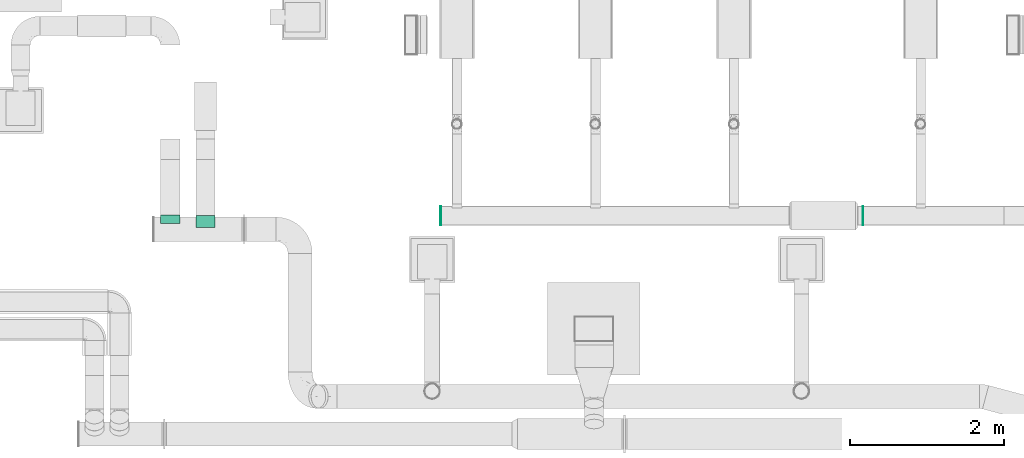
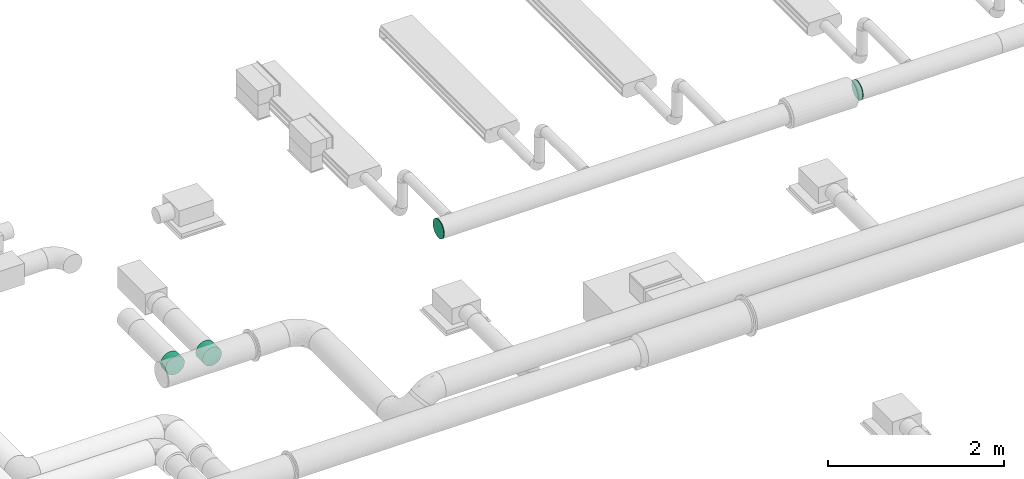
# One storey, part 34 of 36: 4 flow fittings.
"""IFC2X3 building model written with IfcOpenShell, lengths in millimetres."""

from ifc_helpers import new_model, entity, si_unit, converted_unit, derived_unit, direction, frame, origin_with_axes, place, context, subcontext, project, spatial, open_shell, surface_model, source, transform, mapped, type_object, element, save


model = new_model("IFC2X3")

# Units and contexts
model_context = context("Model", 3, precision=0.01, world=frame((0.0, 4.29681676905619e-09, 0.0)), true_north=direction((4.01073788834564e-13, 1.0)))
plan_context = context("Plan", 3, precision=0.01, world=frame((0.0, 4.29681676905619e-09, 0.0)), true_north=direction((4.01073788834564e-13, 1.0)))
body_context = subcontext(model_context, "Body", "Model", "MODEL_VIEW")
ifc_project = project(units=[converted_unit("PLANEANGLEUNIT", "DEGREE", entity("IfcPositiveLengthMeasure", 0.0174532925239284), si_unit("PLANEANGLEUNIT", "RADIAN"), dimensions=[0, 0, 0, 0, 0, 0, 0]), si_unit("AREAUNIT", "SQUARE_METRE"), si_unit("LENGTHUNIT", "METRE", prefix="MILLI"), si_unit("MASSUNIT", "GRAM", prefix="KILO"), si_unit("POWERUNIT", "WATT"), si_unit("PRESSUREUNIT", "PASCAL"), si_unit("FORCEUNIT", "NEWTON", prefix="KILO"), si_unit("ELECTRICCURRENTUNIT", "AMPERE"), si_unit("THERMODYNAMICTEMPERATUREUNIT", "DEGREE_CELSIUS"), si_unit("TIMEUNIT", "SECOND"), si_unit("VOLUMEUNIT", "CUBIC_METRE"), derived_unit("LINEARVELOCITYUNIT", [(si_unit("LENGTHUNIT", "METRE"), 1), (si_unit("TIMEUNIT", "SECOND"), -1)]), derived_unit("VOLUMETRICFLOWRATEUNIT", [(si_unit("VOLUMEUNIT", "CUBIC_METRE"), 1), (si_unit("TIMEUNIT", "SECOND"), -1)]), derived_unit("THERMALTRANSMITTANCEUNIT", [(si_unit("POWERUNIT", "WATT"), 1), (si_unit("THERMODYNAMICTEMPERATUREUNIT", "KELVIN"), -1), (si_unit("AREAUNIT", "SQUARE_METRE"), -1)])], contexts=[model_context, plan_context])

# Site, building, storey
site_placement = place(None, frame((0.0, -4.29681676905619e-09, 0.0), z_axis=(0.0, 0.0, 1.0), x_axis=(1.0, 0.0, 0.0)))
site = spatial("IfcSite", under=ifc_project, at=site_placement, CompositionType="ELEMENT")
building_placement = place(site_placement, frame((0.0, 4.29681676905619e-09, 0.0), z_axis=(0.0, 0.0, 1.0), x_axis=(1.0, 0.0, 0.0)))
building = spatial("IfcBuilding", under=site, at=building_placement, Name="mc-building", CompositionType="ELEMENT")
storey_placement = place(building_placement, frame((0.0, 0.0, 204000.0), z_axis=(0.0, 0.0, 1.0), x_axis=(1.0, 0.0, 0.0)))
storey = spatial("IfcBuildingStorey", under=building, at=storey_placement, Name="Nivå D", CompositionType="ELEMENT", Elevation=204000.0)

# Flow fittings
duct_fitting_type_1 = type_object("IfcDuctFittingType", Name="magicirc_joint_001", PredefinedType="CONNECTOR")
shared_shape_1 = source(origin_with_axes(), body_context, "Body", "SurfaceModel", [
    surface_model("IfcShellBasedSurfaceModel", [(0.0, -62.5, -108.25318), (0.0, -88.38835, -88.38835), (0.0, -32.35238, -120.74073), (0.0, -108.25318, -62.5), (0.0, -120.74073, -32.35238), (0.0, -88.38835, 88.38835), (0.0, -62.5, 108.25318), (0.0, -108.25318, 62.5), (0.0, -125.0, 0.0), (0.0, -120.74073, 32.35238), (10.0, -32.35238, -120.74073), (10.0, -88.38835, -88.38835), (10.0, -62.5, -108.25318), (10.0, -120.74073, -32.35238), (10.0, -108.25318, -62.5), (10.0, -108.25318, 62.5), (10.0, -62.5, 108.25318), (10.0, -88.38835, 88.38835), (10.0, -120.74073, 32.35238), (10.0, -125.0, 0.0), (10.0, 120.74073, -32.35238), (10.0, 125.0, 0.0), (10.0, -32.35238, 120.74073), (0.0, -32.35238, 120.74073), (10.0, 0.0, 125.0), (0.0, 0.0, 125.0), (10.0, 62.5, 108.25318), (0.0, 32.35238, 120.74073), (10.0, 32.35238, 120.74073), (10.0, 88.38835, 88.38835), (0.0, 62.5, 108.25318), (0.0, 108.25318, 62.5), (10.0, 108.25318, 62.5), (10.0, 120.74073, 32.35238), (0.0, 88.38835, 88.38835), (0.0, 120.74073, 32.35238), (0.0, 125.0, 0.0), (10.0, 108.25318, -62.5), (0.0, 120.74073, -32.35238), (0.0, 88.38835, -88.38835), (10.0, 88.38835, -88.38835), (10.0, 62.5, -108.25318), (0.0, 108.25318, -62.5), (0.0, 62.5, -108.25318), (10.0, 32.35238, -120.74073), (0.0, 32.35238, -120.74073), (10.0, 0.0, -125.0), (0.0, 0.0, -125.0)], [open_shell([[[0, 1, 2]], [[3, 4, 1]], [[5, 6, 7]], [[7, 8, 9]], [[10, 11, 12]], [[11, 13, 14]], [[15, 16, 17]], [[18, 19, 15]], [[15, 20, 21]], [[18, 8, 19]], [[15, 9, 18]], [[5, 17, 16]], [[15, 17, 7]], [[6, 16, 22]], [[15, 7, 9]], [[9, 8, 18]], [[23, 24, 25]], [[23, 6, 22]], [[5, 16, 6]], [[5, 7, 17]], [[24, 23, 22]], [[26, 27, 28]], [[29, 30, 26]], [[31, 32, 33]], [[29, 32, 34]], [[35, 33, 21]], [[26, 30, 27]], [[27, 25, 28]], [[35, 31, 33]], [[34, 32, 31]], [[34, 30, 29]], [[36, 35, 21]], [[28, 25, 24]], [[20, 36, 21]], [[37, 38, 20]], [[39, 40, 41]], [[37, 40, 42]], [[43, 41, 44]], [[37, 42, 38]], [[38, 36, 20]], [[45, 46, 47]], [[45, 43, 44]], [[39, 41, 43]], [[39, 42, 40]], [[46, 45, 44]], [[2, 10, 12]], [[0, 12, 11]], [[4, 14, 13]], [[8, 13, 19]], [[11, 14, 1]], [[12, 0, 2]], [[2, 47, 10]], [[1, 14, 3]], [[4, 3, 14]], [[8, 4, 13]], [[1, 0, 11]], [[10, 47, 46]], [[43, 45, 47]], [[39, 43, 47]], [[38, 42, 39]], [[2, 39, 47]], [[4, 7, 39]], [[4, 2, 1]], [[4, 39, 2]], [[8, 7, 4]], [[7, 38, 39]], [[35, 36, 27]], [[31, 35, 30]], [[35, 27, 30]], [[34, 31, 30]], [[6, 27, 36]], [[23, 25, 6]], [[36, 7, 6]], [[27, 6, 25]], [[36, 38, 7]], [[46, 44, 41]], [[46, 41, 40]], [[40, 37, 20]], [[46, 40, 10]], [[40, 15, 13]], [[11, 10, 13]], [[10, 40, 13]], [[13, 15, 19]], [[40, 20, 15]], [[28, 21, 33]], [[28, 33, 32]], [[26, 28, 32]], [[26, 32, 29]], [[21, 28, 16]], [[16, 24, 22]], [[16, 15, 21]], [[24, 16, 28]]])]),
])
flow_fitting_1_placement = place(storey_placement, frame((526491.31828, 416568.96658, 3200.0), z_axis=(0.0, 0.0, 1.0), x_axis=(1.0, 0.0, 0.0)))
element("IfcFlowFitting", 1, at=flow_fitting_1_placement, inside=storey, type_object=duct_fitting_type_1, Name="magicirc_joint_001", context=body_context, shape_type="MappedRepresentation", body=[
    mapped(shared_shape_1, transform((0.0, 0.0, 0.0), scale=1.0)),
])
duct_fitting_type_2 = type_object("IfcDuctFittingType", Name="magicirc_tapoutlet_001", PredefinedType="CONNECTOR")
shared_shape_2 = source(origin_with_axes(), body_context, "Body", "SurfaceModel", [
    surface_model("IfcShellBasedSurfaceModel", [(25.0, 62.5, -108.25318), (25.0, 125.0, 0.0), (25.0, 32.35238, -120.74073), (25.0, -88.38835, -88.38835), (25.0, 0.0, -125.0), (25.0, -120.74073, 32.35238), (25.0, -62.5, -108.25318), (25.0, -32.35238, -120.74073), (25.0, -108.25318, -62.5), (25.0, -120.74073, -32.35238), (25.0, -125.0, 0.0), (25.0, 108.25318, -62.5), (25.0, 120.74073, -32.35238), (25.0, 120.74073, 32.35238), (25.0, 108.25318, 62.5), (25.0, 88.38835, 88.38835), (25.0, 32.35238, 120.74073), (25.0, 62.5, 108.25318), (25.0, -62.5, 108.25318), (25.0, -88.38835, 88.38835), (25.0, -108.25318, 62.5), (25.0, 0.0, 125.0), (25.0, -32.35238, 120.74073), (0.0, 0.0, 125.0), (0.0, 32.35238, 120.74073), (0.0, 62.5, 108.25318), (0.0, 88.38835, 88.38835), (0.0, 108.25318, 62.5), (0.0, 120.74073, 32.35238), (0.0, 125.0, 0.0), (0.0, 120.74073, -32.35238), (0.0, 108.25318, -62.5), (25.0, 88.38835, -88.38835), (0.0, 88.38835, -88.38835), (0.0, 0.0, -125.0), (0.0, 32.35238, -120.74073), (0.0, 62.5, -108.25318), (0.0, -32.35238, -120.74073), (0.0, -62.5, -108.25318), (0.0, -88.38835, -88.38835), (0.0, -108.25318, -62.5), (0.0, -120.74073, -32.35238), (0.0, -125.0, 0.0), (0.0, -120.74073, 32.35238), (0.0, -108.25318, 62.5), (0.0, -88.38835, 88.38835), (0.0, -62.5, 108.25318), (0.0, -32.35238, 120.74073), (-86.28773, 0.0, -125.0), (-86.28773, -32.35238, -120.74073), (-86.28773, 32.35238, -120.74073), (-86.28773, 120.74073, 32.35238), (-86.28773, 62.5, -108.25318), (-86.28773, 88.38835, -88.38835), (-86.28773, 108.25318, -62.5), (-86.28773, -125.0, 0.0), (-86.28773, -120.74073, 32.35238), (-86.28773, -88.38835, -88.38835), (-86.28773, -62.5, -108.25318), (-86.28773, -120.74073, -32.35238), (-86.28773, -108.25318, -62.5), (-86.28773, 120.74073, -32.35238), (-86.28773, 108.25318, 62.5), (-86.28773, 62.5, 108.25318), (-86.28773, 32.35238, 120.74073), (-86.28773, 88.38835, 88.38835), (-86.28773, 0.0, 125.0), (-86.28773, -108.25318, 62.5), (-86.28773, -88.38835, 88.38835), (-86.28773, -32.35238, 120.74073), (-86.28773, -62.5, 108.25318), (-86.28773, 125.0, 0.0)], [open_shell([[[0, 1, 2]], [[3, 4, 5]], [[4, 3, 6]], [[6, 7, 4]], [[8, 5, 9]], [[5, 10, 9]], [[1, 11, 12]], [[13, 14, 4]], [[4, 14, 15]], [[16, 4, 17]], [[4, 15, 17]], [[18, 4, 16]], [[19, 20, 4]], [[16, 21, 22]], [[23, 21, 16]], [[24, 16, 17]], [[23, 16, 24]], [[25, 15, 26]], [[25, 24, 17]], [[15, 25, 17]], [[27, 14, 13]], [[28, 13, 1]], [[26, 14, 27]], [[28, 27, 13]], [[29, 28, 1]], [[14, 26, 15]], [[29, 1, 12]], [[30, 12, 11]], [[29, 12, 30]], [[31, 32, 33]], [[31, 30, 11]], [[32, 31, 11]], [[2, 4, 34]], [[0, 2, 35]], [[33, 0, 36]], [[34, 35, 2]], [[0, 35, 36]], [[0, 33, 32]], [[34, 4, 7]], [[37, 7, 6]], [[34, 7, 37]], [[38, 3, 39]], [[38, 37, 6]], [[3, 38, 6]], [[40, 8, 9]], [[41, 9, 10]], [[39, 8, 40]], [[41, 40, 9]], [[42, 41, 10]], [[8, 39, 3]], [[42, 10, 5]], [[43, 5, 20]], [[42, 5, 43]], [[44, 19, 45]], [[44, 43, 20]], [[19, 44, 20]], [[46, 18, 22]], [[47, 22, 21]], [[45, 18, 46]], [[47, 46, 22]], [[23, 47, 21]], [[18, 45, 19]], [[8, 3, 5]], [[10, 9, 5]], [[19, 4, 18]], [[16, 22, 18]], [[1, 13, 4]], [[2, 1, 4]], [[32, 11, 1]], [[32, 1, 0]], [[4, 6, 7]], [[4, 14, 17]], [[17, 14, 15]], [[4, 16, 18]], [[4, 20, 5]], [[14, 4, 13]], [[17, 16, 4]], [[4, 19, 20]], [[4, 18, 19]], [[21, 22, 16]], [[4, 1, 13]], [[48, 49, 50]], [[50, 51, 52]], [[53, 51, 54]], [[52, 51, 53]], [[50, 55, 56]], [[57, 55, 58]], [[50, 49, 58]], [[59, 55, 60]], [[57, 60, 55]], [[58, 55, 50]], [[61, 54, 51]], [[62, 51, 50]], [[63, 62, 50]], [[63, 50, 64]], [[65, 62, 63]], [[66, 64, 50]], [[56, 67, 50]], [[67, 68, 50]], [[69, 66, 70]], [[68, 70, 66]], [[50, 68, 66]], [[71, 61, 51]], [[64, 23, 24]], [[63, 24, 25]], [[66, 23, 64]], [[64, 24, 63]], [[25, 65, 63]], [[25, 26, 65]], [[51, 27, 28]], [[71, 28, 29]], [[26, 62, 65]], [[26, 27, 62]], [[62, 27, 51]], [[28, 71, 51]], [[71, 29, 30]], [[61, 30, 31]], [[71, 30, 61]], [[33, 53, 54]], [[31, 54, 61]], [[54, 31, 33]], [[50, 36, 35]], [[48, 35, 34]], [[33, 52, 53]], [[33, 36, 52]], [[52, 36, 50]], [[35, 48, 50]], [[37, 38, 49]], [[34, 37, 49]], [[49, 48, 34]], [[58, 49, 38]], [[38, 57, 58]], [[38, 39, 57]], [[59, 40, 41]], [[55, 41, 42]], [[39, 60, 57]], [[39, 40, 60]], [[60, 40, 59]], [[41, 55, 59]], [[56, 42, 43]], [[67, 43, 44]], [[55, 42, 56]], [[56, 43, 67]], [[44, 68, 67]], [[44, 45, 68]], [[69, 46, 47]], [[66, 47, 23]], [[45, 70, 68]], [[45, 46, 70]], [[70, 46, 69]], [[47, 66, 69]], [[65, 62, 50]], [[50, 64, 63]], [[63, 65, 50]], [[50, 68, 70]], [[66, 50, 70]]])]),
])
flow_fitting_2_placement = place(storey_placement, frame((517491.89341, 416551.69142, 2596.62929000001), z_axis=(0.0, 0.0, -1.0), x_axis=(0.0, 1.0, 0.0)))
element("IfcFlowFitting", 2, at=flow_fitting_2_placement, inside=storey, type_object=duct_fitting_type_2, Name="magicirc_tapoutlet_001", context=body_context, shape_type="MappedRepresentation", body=[
    mapped(shared_shape_2, transform((0.0, 0.0, 0.0), scale=1.0)),
])
shared_shape_3 = source(origin_with_axes(), body_context, "Body", "SurfaceModel", [
    surface_model("IfcShellBasedSurfaceModel", [(25.0, 62.5, -108.25318), (25.0, 125.0, 0.0), (25.0, 32.35238, -120.74073), (25.0, -88.38835, -88.38835), (25.0, 0.0, -125.0), (25.0, -120.74073, 32.35238), (25.0, -62.5, -108.25318), (25.0, -32.35238, -120.74073), (25.0, -108.25318, -62.5), (25.0, -120.74073, -32.35238), (25.0, -125.0, 0.0), (25.0, 108.25318, -62.5), (25.0, 120.74073, -32.35238), (25.0, 120.74073, 32.35238), (25.0, 108.25318, 62.5), (25.0, 88.38835, 88.38835), (25.0, 32.35238, 120.74073), (25.0, 62.5, 108.25318), (25.0, -62.5, 108.25318), (25.0, -88.38835, 88.38835), (25.0, -108.25318, 62.5), (25.0, 0.0, 125.0), (25.0, -32.35238, 120.74073), (0.0, 0.0, 125.0), (0.0, 32.35238, 120.74073), (0.0, 62.5, 108.25318), (0.0, 88.38835, 88.38835), (0.0, 108.25318, 62.5), (0.0, 120.74073, 32.35238), (0.0, 125.0, 0.0), (0.0, 120.74073, -32.35238), (0.0, 108.25318, -62.5), (25.0, 88.38835, -88.38835), (0.0, 88.38835, -88.38835), (0.0, 0.0, -125.0), (0.0, 32.35238, -120.74073), (0.0, 62.5, -108.25318), (0.0, -32.35238, -120.74073), (0.0, -62.5, -108.25318), (0.0, -88.38835, -88.38835), (0.0, -108.25318, -62.5), (0.0, -120.74073, -32.35238), (0.0, -125.0, 0.0), (0.0, -120.74073, 32.35238), (0.0, -108.25318, 62.5), (0.0, -88.38835, 88.38835), (0.0, -62.5, 108.25318), (0.0, -32.35238, 120.74073), (-132.07891, 0.0, -125.0), (-132.07891, -32.35238, -120.74073), (-132.07891, 32.35238, -120.74073), (-132.07891, 120.74073, 32.35238), (-132.07891, 62.5, -108.25318), (-132.07891, 88.38835, -88.38835), (-132.07891, 108.25318, -62.5), (-132.07891, -125.0, 0.0), (-132.07891, -120.74073, 32.35238), (-132.07891, -88.38835, -88.38835), (-132.07891, -62.5, -108.25318), (-132.07891, -120.74073, -32.35238), (-132.07891, -108.25318, -62.5), (-132.07891, 120.74073, -32.35238), (-132.07891, 108.25318, 62.5), (-132.07891, 62.5, 108.25318), (-132.07891, 32.35238, 120.74073), (-132.07891, 88.38835, 88.38835), (-132.07891, 0.0, 125.0), (-132.07891, -108.25318, 62.5), (-132.07891, -88.38835, 88.38835), (-132.07891, -32.35238, 120.74073), (-132.07891, -62.5, 108.25318), (-132.07891, 125.0, 0.0)], [open_shell([[[0, 1, 2]], [[3, 4, 5]], [[4, 3, 6]], [[6, 7, 4]], [[8, 5, 9]], [[5, 10, 9]], [[1, 11, 12]], [[13, 14, 4]], [[4, 14, 15]], [[16, 4, 17]], [[4, 15, 17]], [[18, 4, 16]], [[19, 20, 4]], [[16, 21, 22]], [[23, 21, 16]], [[24, 16, 17]], [[23, 16, 24]], [[25, 15, 26]], [[25, 24, 17]], [[15, 25, 17]], [[27, 14, 13]], [[28, 13, 1]], [[26, 14, 27]], [[28, 27, 13]], [[29, 28, 1]], [[14, 26, 15]], [[29, 1, 12]], [[30, 12, 11]], [[29, 12, 30]], [[31, 32, 33]], [[31, 30, 11]], [[32, 31, 11]], [[2, 4, 34]], [[0, 2, 35]], [[33, 0, 36]], [[34, 35, 2]], [[0, 35, 36]], [[0, 33, 32]], [[34, 4, 7]], [[37, 7, 6]], [[34, 7, 37]], [[38, 3, 39]], [[38, 37, 6]], [[3, 38, 6]], [[40, 8, 9]], [[41, 9, 10]], [[39, 8, 40]], [[41, 40, 9]], [[42, 41, 10]], [[8, 39, 3]], [[42, 10, 5]], [[43, 5, 20]], [[42, 5, 43]], [[44, 19, 45]], [[44, 43, 20]], [[19, 44, 20]], [[46, 18, 22]], [[47, 22, 21]], [[45, 18, 46]], [[47, 46, 22]], [[23, 47, 21]], [[18, 45, 19]], [[8, 3, 5]], [[10, 9, 5]], [[19, 4, 18]], [[16, 22, 18]], [[1, 13, 4]], [[2, 1, 4]], [[32, 11, 1]], [[32, 1, 0]], [[4, 6, 7]], [[4, 14, 17]], [[17, 14, 15]], [[4, 16, 18]], [[4, 20, 5]], [[14, 4, 13]], [[17, 16, 4]], [[4, 19, 20]], [[4, 18, 19]], [[21, 22, 16]], [[4, 1, 13]], [[48, 49, 50]], [[50, 51, 52]], [[53, 51, 54]], [[52, 51, 53]], [[50, 55, 56]], [[57, 55, 58]], [[50, 49, 58]], [[59, 55, 60]], [[57, 60, 55]], [[58, 55, 50]], [[61, 54, 51]], [[62, 51, 50]], [[63, 62, 50]], [[63, 50, 64]], [[65, 62, 63]], [[66, 64, 50]], [[56, 67, 50]], [[67, 68, 50]], [[69, 66, 70]], [[68, 70, 66]], [[50, 68, 66]], [[71, 61, 51]], [[64, 23, 24]], [[63, 24, 25]], [[66, 23, 64]], [[64, 24, 63]], [[25, 65, 63]], [[25, 26, 65]], [[51, 27, 28]], [[71, 28, 29]], [[26, 62, 65]], [[26, 27, 62]], [[62, 27, 51]], [[28, 71, 51]], [[30, 31, 54]], [[29, 30, 71]], [[61, 71, 30]], [[53, 54, 31]], [[61, 30, 54]], [[31, 33, 53]], [[50, 36, 35]], [[48, 35, 34]], [[33, 52, 53]], [[33, 36, 52]], [[52, 36, 50]], [[35, 48, 50]], [[49, 34, 37]], [[58, 37, 38]], [[48, 34, 49]], [[49, 37, 58]], [[38, 57, 58]], [[38, 39, 57]], [[59, 40, 41]], [[55, 41, 42]], [[39, 60, 57]], [[39, 40, 60]], [[60, 40, 59]], [[41, 55, 59]], [[56, 42, 43]], [[67, 43, 44]], [[55, 42, 56]], [[56, 43, 67]], [[44, 68, 67]], [[44, 45, 68]], [[69, 46, 47]], [[66, 47, 23]], [[45, 70, 68]], [[45, 46, 70]], [[70, 46, 69]], [[47, 66, 69]], [[50, 65, 62]], [[63, 65, 50]], [[50, 68, 70]], [[66, 50, 70]]])]),
])
flow_fitting_3_placement = place(storey_placement, frame((517950.0, 416549.32973, 2589.0), z_axis=(0.0, 0.0, -1.0), x_axis=(0.0, 1.0, 0.0)))
element("IfcFlowFitting", 3, at=flow_fitting_3_placement, inside=storey, type_object=duct_fitting_type_2, Name="magicirc_tapoutlet_001", context=body_context, shape_type="MappedRepresentation", body=[
    mapped(shared_shape_3, transform((0.0, 0.0, 0.0), scale=1.0)),
])
duct_fitting_type_3 = type_object("IfcDuctFittingType", Name="magicirc_plug_001", PredefinedType="OBSTRUCTION")
shared_shape_4 = source(origin_with_axes(), body_context, "Body", "SurfaceModel", [
    surface_model("IfcShellBasedSurfaceModel", [(0.0, 32.35238, -120.74073), (0.0, 0.0, -125.0), (0.0, 108.25318, -62.5), (0.0, 62.5, -108.25318), (0.0, 88.38835, -88.38835), (0.0, 120.74073, -32.35238), (0.0, -32.35238, -120.74073), (0.0, -62.5, -108.25318), (0.0, -88.38835, -88.38835), (0.0, -125.0, 0.0), (0.0, -108.25318, -62.5), (0.0, -120.74073, -32.35238), (0.0, 125.0, 0.0), (0.0, 108.25318, 62.5), (0.0, 120.74073, 32.35238), (0.0, 88.38835, 88.38835), (0.0, 32.35238, 120.74073), (0.0, 62.5, 108.25318), (0.0, -32.35238, 120.74073), (0.0, -88.38835, 88.38835), (0.0, -62.5, 108.25318), (0.0, -108.25318, 62.5), (0.0, -120.74073, 32.35238), (0.0, 0.0, 125.0), (10.0, 88.38835, -88.38835), (10.0, 0.0, -125.0), (10.0, 32.35238, -120.74073), (10.0, 62.5, -108.25318), (10.0, 108.25318, -62.5), (10.0, 120.74073, -32.35238), (10.0, -32.35238, -120.74073), (10.0, -88.38835, -88.38835), (10.0, -62.5, -108.25318), (10.0, -125.0, 0.0), (10.0, -120.74073, -32.35238), (10.0, -108.25318, -62.5), (10.0, -108.25318, 62.5), (10.0, 88.38835, 88.38835), (10.0, 125.0, 0.0), (10.0, 120.74073, 32.35238), (10.0, 108.25318, 62.5), (10.0, 62.5, 108.25318), (10.0, 32.35238, 120.74073), (10.0, -32.35238, 120.74073), (10.0, -62.5, 108.25318), (10.0, -88.38835, 88.38835), (10.0, -120.74073, 32.35238), (10.0, 0.0, 125.0)], [open_shell([[[0, 1, 2]], [[3, 0, 4]], [[1, 5, 2]], [[4, 0, 2]], [[6, 5, 1]], [[7, 8, 6]], [[9, 6, 8]], [[10, 11, 8]], [[9, 8, 11]], [[9, 5, 6]], [[9, 12, 5]], [[13, 14, 12]], [[15, 13, 12]], [[16, 17, 15]], [[12, 16, 15]], [[9, 18, 16]], [[19, 20, 21]], [[21, 9, 22]], [[9, 21, 20]], [[9, 20, 18]], [[16, 18, 23]], [[12, 9, 16]], [[24, 25, 26]], [[24, 26, 27]], [[28, 29, 25]], [[28, 25, 24]], [[25, 29, 30]], [[30, 31, 32]], [[31, 30, 33]], [[31, 34, 35]], [[34, 31, 33]], [[30, 29, 33]], [[29, 36, 33]], [[37, 38, 39]], [[37, 39, 40]], [[37, 41, 42]], [[38, 37, 43]], [[43, 37, 42]], [[36, 44, 45]], [[46, 33, 36]], [[38, 44, 36]], [[38, 43, 44]], [[47, 43, 42]], [[36, 29, 38]], [[46, 9, 33]], [[36, 22, 46]], [[19, 45, 44]], [[36, 45, 21]], [[20, 44, 43]], [[36, 21, 22]], [[22, 9, 46]], [[18, 47, 23]], [[18, 20, 43]], [[19, 44, 20]], [[19, 21, 45]], [[47, 18, 43]], [[41, 16, 42]], [[37, 17, 41]], [[13, 40, 39]], [[37, 40, 15]], [[14, 39, 38]], [[41, 17, 16]], [[16, 23, 42]], [[14, 13, 39]], [[15, 40, 13]], [[15, 17, 37]], [[12, 14, 38]], [[42, 23, 47]], [[29, 12, 38]], [[28, 5, 29]], [[4, 24, 27]], [[28, 24, 2]], [[3, 27, 26]], [[28, 2, 5]], [[5, 12, 29]], [[0, 25, 1]], [[0, 3, 26]], [[4, 27, 3]], [[4, 2, 24]], [[25, 0, 26]], [[6, 30, 32]], [[7, 32, 31]], [[11, 35, 34]], [[9, 34, 33]], [[31, 35, 8]], [[32, 7, 6]], [[6, 1, 30]], [[8, 35, 10]], [[11, 10, 35]], [[9, 11, 34]], [[8, 7, 31]], [[30, 1, 25]]])]),
])
flow_fitting_4_placement = place(storey_placement, frame((521012.54222, 416568.96658, 3200.0), z_axis=(0.0, 0.0, 1.0), x_axis=(-1.0, 0.0, 0.0)))
element("IfcFlowFitting", 4, at=flow_fitting_4_placement, inside=storey, type_object=duct_fitting_type_3, Name="magicirc_plug_001", context=body_context, shape_type="MappedRepresentation", body=[
    mapped(shared_shape_4, transform((0.0, 0.0, 0.0), scale=1.0)),
])

save(model, "model.ifc")
